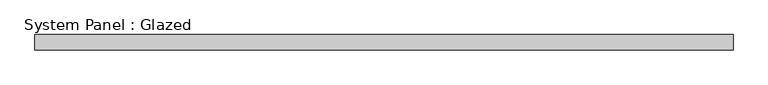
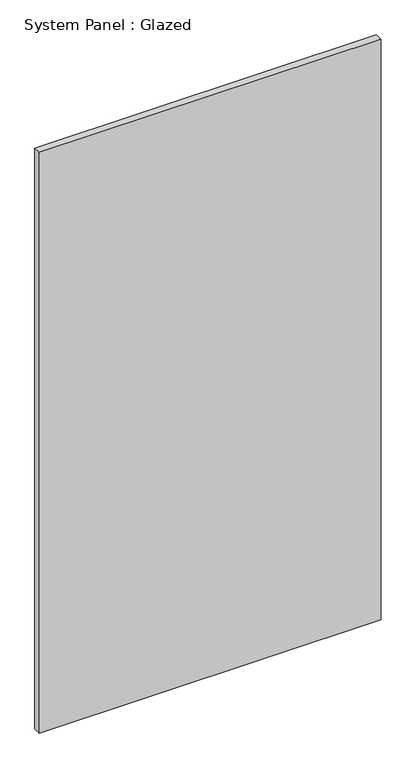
"""IFC4 building model written with IfcOpenShell, lengths in millimetres: plate geometry, System Panel : Glazed."""

from ifc_helpers import new_model, si_unit, origin, origin_with_axes, place, context, project, spatial, polyline, outline, extrude, source, transform, mapped, element, save


def system_panel_glazed_9a941065(model_context):
    return source(origin(), model_context, "Body", "SweptSolid", [
        extrude(outline(polyline([(573.4875, -49.5), (-573.4875, -49.5), (-573.4875, -24.5), (573.4875, -24.5), (573.4875, -49.5)])), origin_with_axes(), (0.0, 0.0, 1.0), 2058.6),
    ])


if __name__ == "__main__":
    model = new_model("IFC4")
    model_context = context("Model", 3, world=origin())
    ifc_project = project(units=[si_unit("LENGTHUNIT", "METRE", prefix="MILLI")], contexts=[model_context])
    site = spatial("IfcSite", under=ifc_project)
    building = spatial("IfcBuilding", under=site)
    placement = place(None, origin())
    system_panel_glazed_shape = system_panel_glazed_9a941065(model_context)
    element("IfcPlate", 1, ObjectType="System Panel : Glazed", at=placement, inside=building, context=model_context, shape_type="MappedRepresentation", body=[
        mapped(system_panel_glazed_shape, transform((0.0, 0.0, 0.0), x_axis=(1.0, 0.0, 0.0), y_axis=(0.0, 1.0, 0.0), z_axis=(0.0, 0.0, 1.0))),
    ])
    save(model, "model.ifc")
